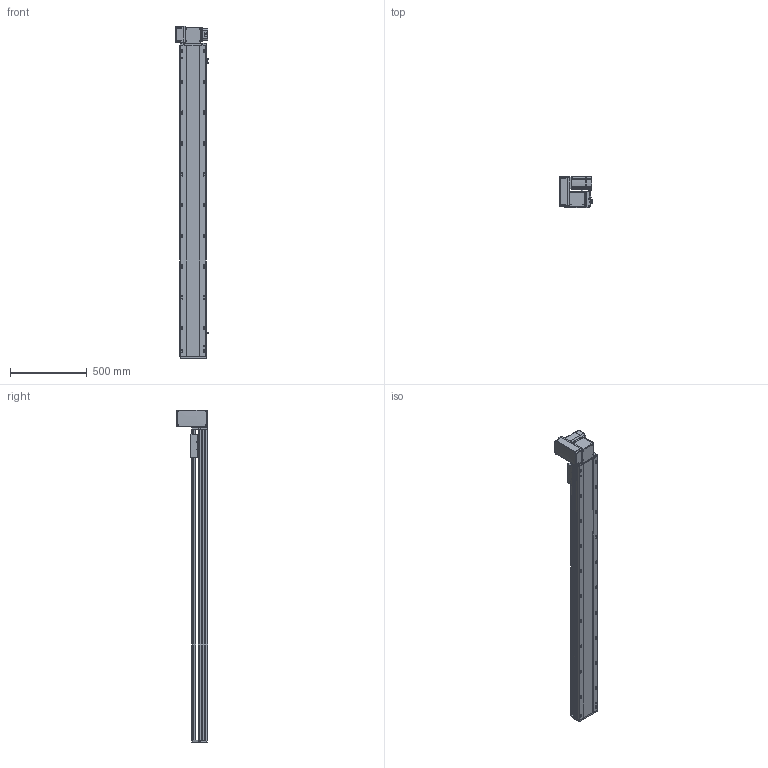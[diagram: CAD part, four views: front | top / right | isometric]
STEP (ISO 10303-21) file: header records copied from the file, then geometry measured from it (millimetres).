
FILE_DESCRIPTION (( 'STEP AP214' ), '1' );
FILE_NAME ('RTB17S-XX-1750-LW-M75-C4.STEP', '2025-12-12T01:08:58', ( '' ), ( '' ), 'SwSTEP 2.0', 'SolidWorks 2018', '' );
FILE_SCHEMA (( 'AUTOMOTIVE_DESIGN' ));
Length unit declared in the file: millimetre
Products named in the file (15): RTB17S-賑釱^RTB17S-XX-XX-LW-M75-C4; RTB22S-GY-005P^RTB17S-LW-々湍釱蚾饜-750W_RTB17S-XX-XX-LW-M75-C4; RTB17S-LW-々湍釱蚾饜-750W^RTB17S-XX-XX-LW-M75-C4; RTB22S-GY-017P^RTB17S-LW-々湍釱蚾饜-750W_RTB17S-XX-XX-LW-M75-C4; RTB22S-GY-008-M75--萇儂啣^RTB17S-LW-々湍釱蚾饜-750W_RTB17S-XX-XX-LW-M75-C4; RTB17S-L-007奻裔^RTB17S-XX-XX-LW-M75-C4; EE672^RTB17S-XX-XX-LW-M75-C4; RTH13-BL-012覜茼え俋离^RTB17S-賑釱_RTB17S-XX-XX-LW-M75-C4; RTB17S-L-004-賑釱^RTB17S-賑釱_RTB17S-XX-XX-LW-M75-C4; RTB17S-L-014-T20-P75--々湍釱^RTB17S-LW-々湍釱蚾饜-750W_RTB17S-XX-XX-LW-M75-C4; RTB17S-XX-1750-LW-M75-C4; RTB17-R-011菁釱^RTB17S-XX-XX-LW-M75-C4; RTB22S-GY-018P^RTB17S-LW-々湍釱蚾饜-750W_RTB17S-XX-XX-LW-M75-C4; 750W萇儂^RTB17S-XX-XX-LW-M75-C4; RTB17S-L-001-耜醱啣^RTB17S-XX-XX-LW-M75-C4
Assembly tree (17 placements, depth 3):
  RTB17S-XX-1750-LW-M75-C4
    RTB17-R-011菁釱^RTB17S-XX-XX-LW-M75-C4
    EE672^RTB17S-XX-XX-LW-M75-C4  x3
    RTB17S-L-001-耜醱啣^RTB17S-XX-XX-LW-M75-C4
    RTB17S-賑釱^RTB17S-XX-XX-LW-M75-C4
      RTB17S-L-004-賑釱^RTB17S-賑釱_RTB17S-XX-XX-LW-M75-C4
      RTH13-BL-012覜茼え俋离^RTB17S-賑釱_RTB17S-XX-XX-LW-M75-C4
    RTB17S-L-007奻裔^RTB17S-XX-XX-LW-M75-C4
    750W萇儂^RTB17S-XX-XX-LW-M75-C4
    RTB17S-LW-々湍釱蚾饜-750W^RTB17S-XX-XX-LW-M75-C4
      RTB17S-L-014-T20-P75--々湍釱^RTB17S-LW-々湍釱蚾饜-750W_RTB17S-XX-XX-LW-M75-C4
      RTB22S-GY-005P^RTB17S-LW-々湍釱蚾饜-750W_RTB17S-XX-XX-LW-M75-C4
      RTB22S-GY-017P^RTB17S-LW-々湍釱蚾饜-750W_RTB17S-XX-XX-LW-M75-C4  x2
      RTB22S-GY-008-M75--萇儂啣^RTB17S-LW-々湍釱蚾饜-750W_RTB17S-XX-XX-LW-M75-C4
      RTB22S-GY-018P^RTB17S-LW-々湍釱蚾饜-750W_RTB17S-XX-XX-LW-M75-C4
Bounding box: 210.4 x 201.5 x 2157.5 mm (x, y, z)
Volume: 16889508.2 mm3; surface area: 2992166 mm2
Topology: 17 solids, 17 shells, 2153 faces, 5998 edges, 3878 vertices
Faces by surface type: plane 978, cylinder 759, bspline 294, cone 110, sphere 8, torus 4
Entity records: 61174 total; most frequent: CARTESIAN_POINT 18062, ORIENTED_EDGE 8840, DIRECTION 8222, EDGE_CURVE 4420, AXIS2_PLACEMENT_3D 2898, VERTEX_POINT 2882, VECTOR 2426, LINE 2426
